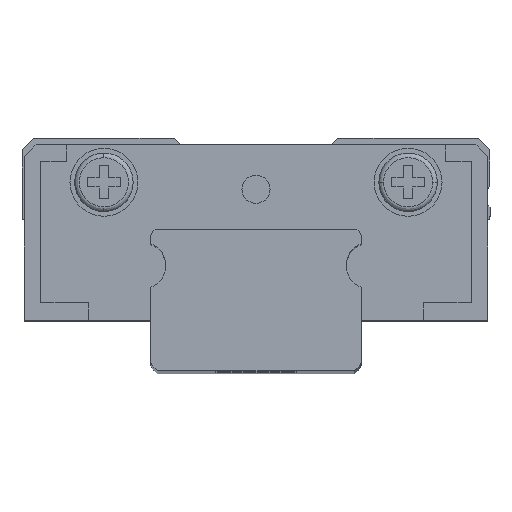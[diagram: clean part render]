
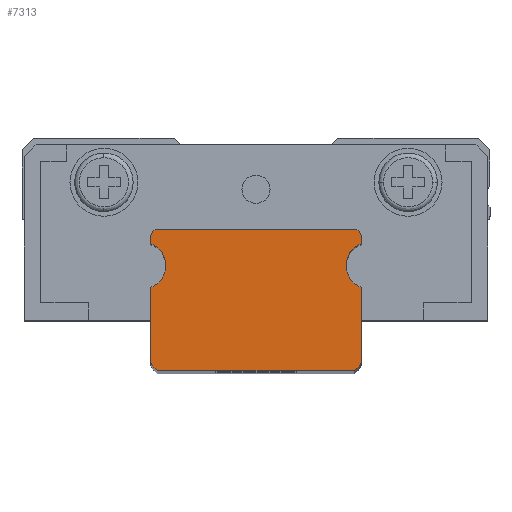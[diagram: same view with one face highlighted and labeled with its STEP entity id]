
A CAD part, top view. The second image highlights one B-rep face of the part: STEP entity #7313.
In plain terms, the highlighted planar face has unit normal (0, 0, 1).
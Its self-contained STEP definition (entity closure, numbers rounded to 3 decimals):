
#85 = ORIENTED_EDGE ( 'NONE', *, *, #4771, .T. ) ;
#133 = CARTESIAN_POINT ( 'NONE',  ( -4.2, 0.424, 75. ) ) ;
#200 = ORIENTED_EDGE ( 'NONE', *, *, #9790, .T. ) ;
#255 = DIRECTION ( 'NONE',  ( 1., 0., 0. ) ) ;
#390 = AXIS2_PLACEMENT_3D ( 'NONE', #8081, #10034, #4455 ) ;
#699 = LINE ( 'NONE', #1345, #6265 ) ;
#874 = CARTESIAN_POINT ( 'NONE',  ( -4.5, 5.734, 75. ) ) ;
#927 = VERTEX_POINT ( 'NONE', #8520 ) ;
#930 = CARTESIAN_POINT ( 'NONE',  ( 4.5, 3.563, 75. ) ) ;
#1009 = ORIENTED_EDGE ( 'NONE', *, *, #7723, .T. ) ;
#1079 = VECTOR ( 'NONE', #7169, 1000. ) ;
#1089 = CARTESIAN_POINT ( 'NONE',  ( -4.309, 6.05, 75. ) ) ;
#1110 = LINE ( 'NONE', #12409, #10985 ) ;
#1165 = CARTESIAN_POINT ( 'NONE',  ( -4.309, 6.05, 75. ) ) ;
#1205 = EDGE_CURVE ( 'NONE', #11030, #10406, #10450, .T. ) ;
#1232 = ORIENTED_EDGE ( 'NONE', *, *, #3411, .T. ) ;
#1250 = CARTESIAN_POINT ( 'NONE',  ( 4.5, 5.437, 75. ) ) ;
#1345 = CARTESIAN_POINT ( 'NONE',  ( -4.2, 0., 75. ) ) ;
#1429 = CARTESIAN_POINT ( 'NONE',  ( -4.5, 5.734, 75. ) ) ;
#1584 = ORIENTED_EDGE ( 'NONE', *, *, #6102, .T. ) ;
#1738 = CIRCLE ( 'NONE', #10204, 0.3 ) ;
#1799 = ORIENTED_EDGE ( 'NONE', *, *, #1205, .T. ) ;
#1815 = CARTESIAN_POINT ( 'NONE',  ( 4.5, 0.424, 75. ) ) ;
#1882 = AXIS2_PLACEMENT_3D ( 'NONE', #3834, #8606, #10511 ) ;
#1883 = VERTEX_POINT ( 'NONE', #7389 ) ;
#2297 = ORIENTED_EDGE ( 'NONE', *, *, #8852, .T. ) ;
#2339 = DIRECTION ( 'NONE',  ( 1., 0., 0. ) ) ;
#2387 = EDGE_CURVE ( 'NONE', #12176, #3267, #1738, .T. ) ;
#2446 = VERTEX_POINT ( 'NONE', #6941 ) ;
#2485 = EDGE_CURVE ( 'NONE', #5461, #10978, #4585, .T. ) ;
#2514 = VECTOR ( 'NONE', #11844, 1000. ) ;
#2879 = ORIENTED_EDGE ( 'NONE', *, *, #7321, .T. ) ;
#2965 = CARTESIAN_POINT ( 'NONE',  ( 4.2, 5.734, 75. ) ) ;
#3008 = VERTEX_POINT ( 'NONE', #6446 ) ;
#3113 = LINE ( 'NONE', #7037, #2514 ) ;
#3128 = DIRECTION ( 'NONE',  ( 0., 0., 1. ) ) ;
#3170 = CARTESIAN_POINT ( 'NONE',  ( 4.5, 5.437, 75. ) ) ;
#3173 = LINE ( 'NONE', #874, #9668 ) ;
#3178 = CARTESIAN_POINT ( 'NONE',  ( -4.2, 0., 75. ) ) ;
#3230 = VERTEX_POINT ( 'NONE', #7629 ) ;
#3267 = VERTEX_POINT ( 'NONE', #3810 ) ;
#3379 = VECTOR ( 'NONE', #5641, 1000. ) ;
#3411 = EDGE_CURVE ( 'NONE', #3267, #7849, #1110, .T. ) ;
#3496 = EDGE_CURVE ( 'NONE', #5883, #5461, #4236, .T. ) ;
#3555 = CARTESIAN_POINT ( 'NONE',  ( 4.412, 5.946, 75. ) ) ;
#3785 = ORIENTED_EDGE ( 'NONE', *, *, #6035, .T. ) ;
#3799 = ORIENTED_EDGE ( 'NONE', *, *, #2387, .T. ) ;
#3810 = CARTESIAN_POINT ( 'NONE',  ( -4.412, 0.212, 75. ) ) ;
#3834 = CARTESIAN_POINT ( 'NONE',  ( 4.2, 0.424, 75. ) ) ;
#3903 = LINE ( 'NONE', #1815, #3379 ) ;
#3908 = VERTEX_POINT ( 'NONE', #11862 ) ;
#4144 = CARTESIAN_POINT ( 'NONE',  ( -4.5, 3.563, 75. ) ) ;
#4236 = LINE ( 'NONE', #1165, #4559 ) ;
#4247 = ORIENTED_EDGE ( 'NONE', *, *, #11001, .T. ) ;
#4455 = DIRECTION ( 'NONE',  ( 1., 0., 0. ) ) ;
#4559 = VECTOR ( 'NONE', #6944, 1000. ) ;
#4585 = CIRCLE ( 'NONE', #10687, 0.3 ) ;
#4771 = EDGE_CURVE ( 'NONE', #3008, #12319, #3903, .T. ) ;
#5011 = DIRECTION ( 'NONE',  ( -1., 0., 0. ) ) ;
#5040 = ORIENTED_EDGE ( 'NONE', *, *, #8133, .T. ) ;
#5242 = CARTESIAN_POINT ( 'NONE',  ( -4.2, 5.734, 75. ) ) ;
#5298 = ORIENTED_EDGE ( 'NONE', *, *, #6912, .T. ) ;
#5461 = VERTEX_POINT ( 'NONE', #6517 ) ;
#5551 = CARTESIAN_POINT ( 'NONE',  ( 4.85, 4.5, 75. ) ) ;
#5569 = AXIS2_PLACEMENT_3D ( 'NONE', #9221, #9137, #7244 ) ;
#5641 = DIRECTION ( 'NONE',  ( 0., 1., 0. ) ) ;
#5738 = DIRECTION ( 'NONE',  ( 0., -1., 0. ) ) ;
#5740 = PLANE ( 'NONE',  #7441 ) ;
#5865 = VECTOR ( 'NONE', #5011, 1000. ) ;
#5873 = DIRECTION ( 'NONE',  ( 0., 0., 1. ) ) ;
#5883 = VERTEX_POINT ( 'NONE', #1089 ) ;
#5920 = DIRECTION ( 'NONE',  ( 1., 0., 0. ) ) ;
#6035 = EDGE_CURVE ( 'NONE', #10406, #927, #9336, .T. ) ;
#6102 = EDGE_CURVE ( 'NONE', #12319, #11030, #8896, .T. ) ;
#6178 = ORIENTED_EDGE ( 'NONE', *, *, #2485, .T. ) ;
#6265 = VECTOR ( 'NONE', #2339, 1000. ) ;
#6351 = CARTESIAN_POINT ( 'NONE',  ( -4.5, 3.563, 75. ) ) ;
#6446 = CARTESIAN_POINT ( 'NONE',  ( 4.5, 0.424, 75. ) ) ;
#6517 = CARTESIAN_POINT ( 'NONE',  ( -4.412, 5.946, 75. ) ) ;
#6555 = ORIENTED_EDGE ( 'NONE', *, *, #6847, .T. ) ;
#6777 = FACE_OUTER_BOUND ( 'NONE', #11245, .T. ) ;
#6847 = EDGE_CURVE ( 'NONE', #3908, #5883, #8575, .T. ) ;
#6912 = EDGE_CURVE ( 'NONE', #8157, #12176, #10946, .T. ) ;
#6941 = CARTESIAN_POINT ( 'NONE',  ( -4.5, 5.437, 75. ) ) ;
#6944 = DIRECTION ( 'NONE',  ( -0.707, -0.707, 0. ) ) ;
#7037 = CARTESIAN_POINT ( 'NONE',  ( 4.2, 0., 75. ) ) ;
#7169 = DIRECTION ( 'NONE',  ( 0., 1., 0. ) ) ;
#7244 = DIRECTION ( 'NONE',  ( 1., 0., 0. ) ) ;
#7313 = ADVANCED_FACE ( 'NONE', ( #6777 ), #5740, .T. ) ;
#7321 = EDGE_CURVE ( 'NONE', #7884, #3008, #11250, .T. ) ;
#7389 = CARTESIAN_POINT ( 'NONE',  ( 4.412, 5.946, 75. ) ) ;
#7441 = AXIS2_PLACEMENT_3D ( 'NONE', #7652, #10634, #9643 ) ;
#7472 = VECTOR ( 'NONE', #10295, 1000. ) ;
#7629 = CARTESIAN_POINT ( 'NONE',  ( 4.2, 0., 75. ) ) ;
#7652 = CARTESIAN_POINT ( 'NONE',  ( 4.2, 0.424, 75. ) ) ;
#7723 = EDGE_CURVE ( 'NONE', #3230, #7884, #3113, .T. ) ;
#7849 = VERTEX_POINT ( 'NONE', #3178 ) ;
#7884 = VERTEX_POINT ( 'NONE', #8886 ) ;
#8030 = CARTESIAN_POINT ( 'NONE',  ( 4.309, 6.05, 75. ) ) ;
#8081 = CARTESIAN_POINT ( 'NONE',  ( -4.85, 4.5, 75. ) ) ;
#8133 = EDGE_CURVE ( 'NONE', #2446, #8157, #12102, .T. ) ;
#8157 = VERTEX_POINT ( 'NONE', #6351 ) ;
#8375 = CARTESIAN_POINT ( 'NONE',  ( -4.5, 0.424, 75. ) ) ;
#8520 = CARTESIAN_POINT ( 'NONE',  ( 4.5, 5.734, 75. ) ) ;
#8575 = LINE ( 'NONE', #8030, #5865 ) ;
#8606 = DIRECTION ( 'NONE',  ( 0., 0., 1. ) ) ;
#8737 = VECTOR ( 'NONE', #8997, 1000. ) ;
#8852 = EDGE_CURVE ( 'NONE', #10978, #2446, #3173, .T. ) ;
#8886 = CARTESIAN_POINT ( 'NONE',  ( 4.412, 0.212, 75. ) ) ;
#8896 = CIRCLE ( 'NONE', #5569, 1. ) ;
#8997 = DIRECTION ( 'NONE',  ( 0., -1., 0. ) ) ;
#9043 = AXIS2_PLACEMENT_3D ( 'NONE', #2965, #5873, #5920 ) ;
#9137 = DIRECTION ( 'NONE',  ( 0., 0., -1. ) ) ;
#9204 = ORIENTED_EDGE ( 'NONE', *, *, #11508, .T. ) ;
#9221 = CARTESIAN_POINT ( 'NONE',  ( 4.85, 4.5, 75. ) ) ;
#9285 = CIRCLE ( 'NONE', #9043, 0.3 ) ;
#9336 = LINE ( 'NONE', #1250, #1079 ) ;
#9643 = DIRECTION ( 'NONE',  ( 1., 0., 0. ) ) ;
#9668 = VECTOR ( 'NONE', #5738, 1000. ) ;
#9699 = ORIENTED_EDGE ( 'NONE', *, *, #3496, .T. ) ;
#9790 = EDGE_CURVE ( 'NONE', #927, #1883, #9285, .T. ) ;
#9834 = DIRECTION ( 'NONE',  ( 0., 0., 1. ) ) ;
#9870 = DIRECTION ( 'NONE',  ( 1., 0., 0. ) ) ;
#10034 = DIRECTION ( 'NONE',  ( 0., 0., -1. ) ) ;
#10204 = AXIS2_PLACEMENT_3D ( 'NONE', #133, #9834, #255 ) ;
#10295 = DIRECTION ( 'NONE',  ( -0.707, 0.707, 0. ) ) ;
#10406 = VERTEX_POINT ( 'NONE', #3170 ) ;
#10450 = CIRCLE ( 'NONE', #12096, 1. ) ;
#10511 = DIRECTION ( 'NONE',  ( 1., 0., 0. ) ) ;
#10634 = DIRECTION ( 'NONE',  ( 0., 0., 1. ) ) ;
#10687 = AXIS2_PLACEMENT_3D ( 'NONE', #5242, #3128, #9870 ) ;
#10726 = CARTESIAN_POINT ( 'NONE',  ( 3.85, 4.5, 75. ) ) ;
#10946 = LINE ( 'NONE', #4144, #8737 ) ;
#10978 = VERTEX_POINT ( 'NONE', #1429 ) ;
#10985 = VECTOR ( 'NONE', #11511, 1000. ) ;
#11001 = EDGE_CURVE ( 'NONE', #7849, #3230, #699, .T. ) ;
#11030 = VERTEX_POINT ( 'NONE', #10726 ) ;
#11244 = DIRECTION ( 'NONE',  ( 0., 0., -1. ) ) ;
#11245 = EDGE_LOOP ( 'NONE', ( #2879, #85, #1584, #1799, #3785, #200, #9204, #6555, #9699, #6178, #2297, #5040, #5298, #3799, #1232, #4247, #1009 ) ) ;
#11250 = CIRCLE ( 'NONE', #1882, 0.3 ) ;
#11508 = EDGE_CURVE ( 'NONE', #1883, #3908, #11515, .T. ) ;
#11511 = DIRECTION ( 'NONE',  ( 0.707, -0.707, 0. ) ) ;
#11515 = LINE ( 'NONE', #3555, #7472 ) ;
#11844 = DIRECTION ( 'NONE',  ( 0.707, 0.707, 0. ) ) ;
#11862 = CARTESIAN_POINT ( 'NONE',  ( 4.309, 6.05, 75. ) ) ;
#12096 = AXIS2_PLACEMENT_3D ( 'NONE', #5551, #11244, #12275 ) ;
#12102 = CIRCLE ( 'NONE', #390, 1. ) ;
#12176 = VERTEX_POINT ( 'NONE', #8375 ) ;
#12275 = DIRECTION ( 'NONE',  ( 1., 0., 0. ) ) ;
#12319 = VERTEX_POINT ( 'NONE', #930 ) ;
#12409 = CARTESIAN_POINT ( 'NONE',  ( -4.412, 0.212, 75. ) ) ;
